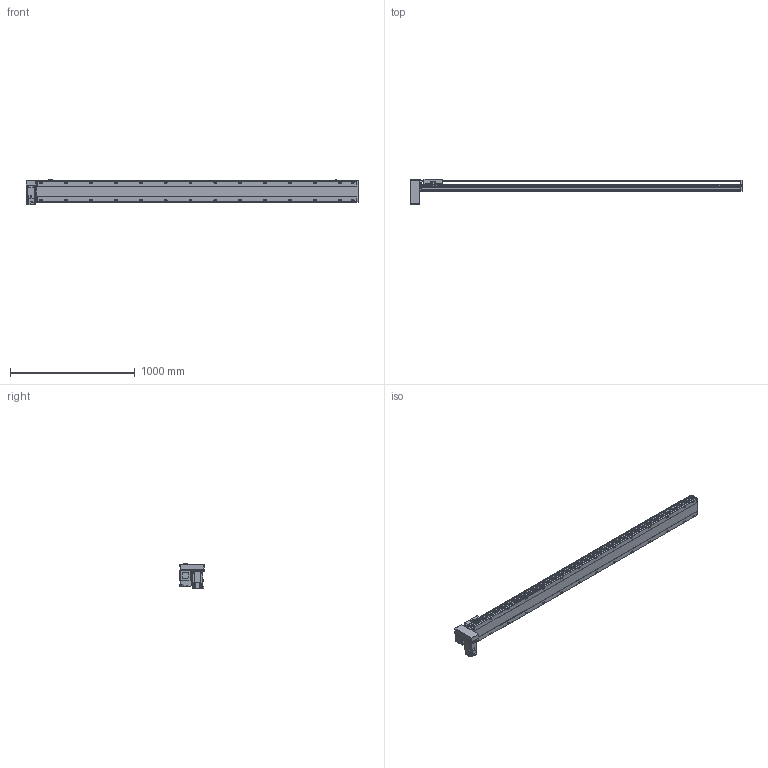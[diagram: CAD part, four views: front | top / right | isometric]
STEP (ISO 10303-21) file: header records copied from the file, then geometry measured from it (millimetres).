
FILE_DESCRIPTION( ( 'STEP AP214' ), '1' );
FILE_NAME( 'x:/temp/worker_5/temp/exporttempdir_3988_44_40hyd/format_0/PBS170-P40-S2300-RD-T75-C1-N(0).stp', '2022-06-08T05:37:32', ( 'License CC BY-ND 4.0' ), ( 'CADENAS' ), ' ', 'PARTsolutions', ' ' );
FILE_SCHEMA( ( 'AUTOMOTIVE_DESIGN { 1 0 10303 214 1 1 1 1 }' ) );
Length unit declared in the file: millimetre
Products named in the file (7): PBS170-P40-S2300-RD-T75-C1-N(0); _PBS170-S2300()_body; _PBS170T-RD_motors; _T75-p1; _PBS170_sliser; _PBS170_plant; _PBS170_sensor
Assembly tree (8 placements, depth 2):
  PBS170-P40-S2300-RD-T75-C1-N(0)
    _PBS170-S2300()_body
    _PBS170T-RD_motors
    _T75-p1
    _PBS170_sliser
    _PBS170_plant
    _PBS170_sensor  x3
Bounding box: 2663 x 201 x 205.3 mm (x, y, z)
Volume: 20252233.2 mm3; surface area: 2558160.1 mm2
Topology: 8 solids, 8 shells, 1178 faces, 3115 edges, 2030 vertices
Faces by surface type: plane 723, cylinder 387, cone 58, sphere 8, torus 2
Full cylindrical faces by diameter (mm): 3.242 x4, 4 x2, 4.4 x4, 4.5 x6, 4.917 x4, 6 x9, 6.647 x36, 7 x2, 7.5 x4, 8 x8, 8.5 x28, 10 x4, 10.5 x28, 11 x2, 30 x2, 40 x1, 70 x1
Entity records: 43592 total; most frequent: CARTESIAN_POINT 7229, DIRECTION 5720, ORIENTED_EDGE 5388, EDGE_CURVE 2694, AXIS2_PLACEMENT_3D 2017, VERTEX_POINT 1874, LINE 1686, VECTOR 1686
